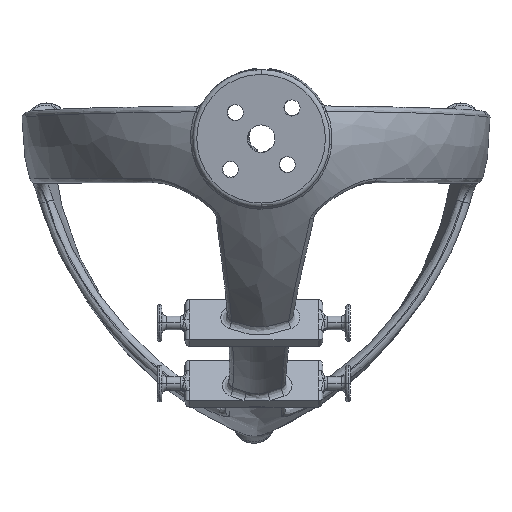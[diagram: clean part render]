
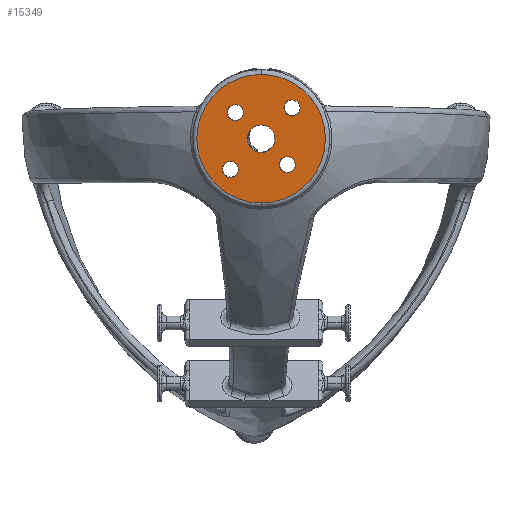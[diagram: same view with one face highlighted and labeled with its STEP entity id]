
A CAD part, top view. The second image highlights one B-rep face of the part: STEP entity #15349.
In plain terms, the highlighted planar face has unit normal (-0.052, -0.052, 0.997).
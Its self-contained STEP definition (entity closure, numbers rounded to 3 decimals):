
#728 = EDGE_LOOP ( 'NONE', ( #23106, #13527 ) ) ;
#1397 = CARTESIAN_POINT ( 'NONE',  ( -5.136, -3.368, -30.611 ) ) ;
#1536 = DIRECTION ( 'NONE',  ( -0.052, -0.052, 0.997 ) ) ;
#1688 = CARTESIAN_POINT ( 'NONE',  ( 8.281, 10.012, -29.206 ) ) ;
#1983 = VERTEX_POINT ( 'NONE', #14915 ) ;
#2585 = DIRECTION ( 'NONE',  ( 0.052, 0.052, -0.997 ) ) ;
#2973 = DIRECTION ( 'NONE',  ( 0., 0.999, 0.052 ) ) ;
#3686 = EDGE_CURVE ( 'NONE', #38434, #38652, #20599, .T. ) ;
#4035 = AXIS2_PLACEMENT_3D ( 'NONE', #12619, #12348, #34086 ) ;
#4272 = EDGE_CURVE ( 'NONE', #5131, #39244, #36839, .T. ) ;
#4338 = EDGE_CURVE ( 'NONE', #39244, #5131, #22044, .T. ) ;
#4681 = EDGE_CURVE ( 'NONE', #22495, #1983, #25834, .T. ) ;
#5131 = VERTEX_POINT ( 'NONE', #34889 ) ;
#5255 = AXIS2_PLACEMENT_3D ( 'NONE', #9523, #27940, #15848 ) ;
#5417 = CIRCLE ( 'NONE', #28081, 1.75 ) ;
#5777 = CARTESIAN_POINT ( 'NONE',  ( 8.281, 8.264, -29.297 ) ) ;
#5825 = AXIS2_PLACEMENT_3D ( 'NONE', #37361, #19052, #15394 ) ;
#7626 = CARTESIAN_POINT ( 'NONE',  ( 1.572, 1.574, -30. ) ) ;
#7924 = CIRCLE ( 'NONE', #4035, 1.75 ) ;
#8007 = PLANE ( 'NONE',  #15712 ) ;
#8336 = CARTESIAN_POINT ( 'NONE',  ( -5.136, -5.115, -30.703 ) ) ;
#9118 = EDGE_CURVE ( 'NONE', #38652, #38434, #10359, .T. ) ;
#9523 = CARTESIAN_POINT ( 'NONE',  ( 1.572, 1.574, -30. ) ) ;
#9589 = DIRECTION ( 'NONE',  ( 0., 0.999, 0.052 ) ) ;
#9732 = EDGE_CURVE ( 'NONE', #28246, #14136, #26213, .T. ) ;
#9753 = FACE_OUTER_BOUND ( 'NONE', #12243, .T. ) ;
#10253 = FACE_BOUND ( 'NONE', #728, .T. ) ;
#10359 = CIRCLE ( 'NONE', #34618, 1.75 ) ;
#11121 = EDGE_CURVE ( 'NONE', #32933, #18273, #7924, .T. ) ;
#11363 = CARTESIAN_POINT ( 'NONE',  ( -4.077, 5.491, -30.09 ) ) ;
#11866 = DIRECTION ( 'NONE',  ( 0.052, 0.052, -0.997 ) ) ;
#12243 = EDGE_LOOP ( 'NONE', ( #33477, #18611 ) ) ;
#12348 = DIRECTION ( 'NONE',  ( 0.052, 0.052, -0.997 ) ) ;
#12619 = CARTESIAN_POINT ( 'NONE',  ( -4.077, 7.239, -29.999 ) ) ;
#12673 = DIRECTION ( 'NONE',  ( 0.052, 0.052, -0.997 ) ) ;
#13240 = EDGE_CURVE ( 'NONE', #14136, #28246, #31382, .T. ) ;
#13352 = EDGE_CURVE ( 'NONE', #14429, #31928, #31874, .T. ) ;
#13527 = ORIENTED_EDGE ( 'NONE', *, *, #15539, .T. ) ;
#13587 = AXIS2_PLACEMENT_3D ( 'NONE', #8336, #39323, #29947 ) ;
#14136 = VERTEX_POINT ( 'NONE', #1397 ) ;
#14275 = ORIENTED_EDGE ( 'NONE', *, *, #11121, .T. ) ;
#14429 = VERTEX_POINT ( 'NONE', #15387 ) ;
#14915 = CARTESIAN_POINT ( 'NONE',  ( 7.221, -5.838, -30.093 ) ) ;
#15349 = ADVANCED_FACE ( 'NONE', ( #18450, #21827, #32791, #31841, #10253, #9753 ), #8007, .F. ) ;
#15387 = CARTESIAN_POINT ( 'NONE',  ( 1.572, 4.57, -29.843 ) ) ;
#15394 = DIRECTION ( 'NONE',  ( 0., 0.999, 0.052 ) ) ;
#15539 = EDGE_CURVE ( 'NONE', #1983, #22495, #5417, .T. ) ;
#15681 = CARTESIAN_POINT ( 'NONE',  ( -4.077, 7.239, -29.999 ) ) ;
#15712 = AXIS2_PLACEMENT_3D ( 'NONE', #32951, #20405, #20270 ) ;
#15848 = DIRECTION ( 'NONE',  ( 0., -0.999, -0.052 ) ) ;
#16488 = CIRCLE ( 'NONE', #35863, 1.75 ) ;
#18273 = VERTEX_POINT ( 'NONE', #11363 ) ;
#18317 = ORIENTED_EDGE ( 'NONE', *, *, #26044, .F. ) ;
#18450 = FACE_BOUND ( 'NONE', #29765, .T. ) ;
#18611 = ORIENTED_EDGE ( 'NONE', *, *, #4272, .T. ) ;
#18765 = DIRECTION ( 'NONE',  ( 0., -0.999, -0.052 ) ) ;
#19052 = DIRECTION ( 'NONE',  ( 0.052, 0.052, -0.997 ) ) ;
#19200 = DIRECTION ( 'NONE',  ( 0.052, 0.052, -0.997 ) ) ;
#19794 = ORIENTED_EDGE ( 'NONE', *, *, #13352, .F. ) ;
#20028 = CARTESIAN_POINT ( 'NONE',  ( 1.572, 1.574, -30. ) ) ;
#20043 = AXIS2_PLACEMENT_3D ( 'NONE', #5777, #27274, #24336 ) ;
#20270 = DIRECTION ( 'NONE',  ( 0., 0.999, 0.052 ) ) ;
#20405 = DIRECTION ( 'NONE',  ( 0.052, 0.052, -0.997 ) ) ;
#20599 = CIRCLE ( 'NONE', #20043, 1.75 ) ;
#21450 = DIRECTION ( 'NONE',  ( -0.052, -0.052, 0.997 ) ) ;
#21507 = CARTESIAN_POINT ( 'NONE',  ( 8.281, 6.517, -29.389 ) ) ;
#21571 = ORIENTED_EDGE ( 'NONE', *, *, #9732, .T. ) ;
#21827 = FACE_BOUND ( 'NONE', #28847, .T. ) ;
#21890 = CIRCLE ( 'NONE', #5255, 3. ) ;
#22044 = CIRCLE ( 'NONE', #39698, 14. ) ;
#22495 = VERTEX_POINT ( 'NONE', #22836 ) ;
#22649 = CARTESIAN_POINT ( 'NONE',  ( -4.077, 8.987, -29.907 ) ) ;
#22727 = DIRECTION ( 'NONE',  ( 0., 0.999, 0.052 ) ) ;
#22836 = CARTESIAN_POINT ( 'NONE',  ( 7.221, -2.343, -29.91 ) ) ;
#22988 = DIRECTION ( 'NONE',  ( -0.052, -0.052, 0.997 ) ) ;
#23106 = ORIENTED_EDGE ( 'NONE', *, *, #4681, .T. ) ;
#24070 = EDGE_LOOP ( 'NONE', ( #14275, #25982 ) ) ;
#24336 = DIRECTION ( 'NONE',  ( 0., 0.999, 0.052 ) ) ;
#25218 = DIRECTION ( 'NONE',  ( 0., 0.999, 0.052 ) ) ;
#25254 = CARTESIAN_POINT ( 'NONE',  ( 1.572, -1.421, -30.157 ) ) ;
#25353 = AXIS2_PLACEMENT_3D ( 'NONE', #20028, #1536, #22727 ) ;
#25834 = CIRCLE ( 'NONE', #5825, 1.75 ) ;
#25982 = ORIENTED_EDGE ( 'NONE', *, *, #29342, .T. ) ;
#26044 = EDGE_CURVE ( 'NONE', #31928, #14429, #21890, .T. ) ;
#26213 = CIRCLE ( 'NONE', #13587, 1.75 ) ;
#27274 = DIRECTION ( 'NONE',  ( 0.052, 0.052, -0.997 ) ) ;
#27602 = CARTESIAN_POINT ( 'NONE',  ( 8.281, 8.264, -29.297 ) ) ;
#27940 = DIRECTION ( 'NONE',  ( -0.052, -0.052, 0.997 ) ) ;
#27946 = ORIENTED_EDGE ( 'NONE', *, *, #13240, .T. ) ;
#28081 = AXIS2_PLACEMENT_3D ( 'NONE', #31084, #2585, #39245 ) ;
#28246 = VERTEX_POINT ( 'NONE', #32495 ) ;
#28847 = EDGE_LOOP ( 'NONE', ( #27946, #21571 ) ) ;
#29342 = EDGE_CURVE ( 'NONE', #18273, #32933, #16488, .T. ) ;
#29765 = EDGE_LOOP ( 'NONE', ( #18317, #19794 ) ) ;
#29947 = DIRECTION ( 'NONE',  ( 0., 0.999, 0.052 ) ) ;
#30649 = CARTESIAN_POINT ( 'NONE',  ( 1.572, 1.574, -30. ) ) ;
#31084 = CARTESIAN_POINT ( 'NONE',  ( 7.221, -4.09, -30.001 ) ) ;
#31382 = CIRCLE ( 'NONE', #33683, 1.75 ) ;
#31841 = FACE_BOUND ( 'NONE', #37433, .T. ) ;
#31874 = CIRCLE ( 'NONE', #37243, 3. ) ;
#31928 = VERTEX_POINT ( 'NONE', #25254 ) ;
#32495 = CARTESIAN_POINT ( 'NONE',  ( -5.136, -6.863, -30.794 ) ) ;
#32538 = CARTESIAN_POINT ( 'NONE',  ( 1.572, 15.555, -29.266 ) ) ;
#32791 = FACE_BOUND ( 'NONE', #24070, .T. ) ;
#32933 = VERTEX_POINT ( 'NONE', #22649 ) ;
#32951 = CARTESIAN_POINT ( 'NONE',  ( 1.572, 1.574, -30. ) ) ;
#33477 = ORIENTED_EDGE ( 'NONE', *, *, #4338, .T. ) ;
#33683 = AXIS2_PLACEMENT_3D ( 'NONE', #34138, #12673, #9589 ) ;
#34086 = DIRECTION ( 'NONE',  ( 0., 0.999, 0.052 ) ) ;
#34138 = CARTESIAN_POINT ( 'NONE',  ( -5.136, -5.115, -30.703 ) ) ;
#34618 = AXIS2_PLACEMENT_3D ( 'NONE', #27602, #11866, #2973 ) ;
#34889 = CARTESIAN_POINT ( 'NONE',  ( 1.572, -12.406, -30.734 ) ) ;
#35863 = AXIS2_PLACEMENT_3D ( 'NONE', #15681, #19200, #25218 ) ;
#36839 = CIRCLE ( 'NONE', #25353, 14. ) ;
#37243 = AXIS2_PLACEMENT_3D ( 'NONE', #30649, #21450, #18765 ) ;
#37320 = ORIENTED_EDGE ( 'NONE', *, *, #9118, .T. ) ;
#37361 = CARTESIAN_POINT ( 'NONE',  ( 7.221, -4.09, -30.001 ) ) ;
#37433 = EDGE_LOOP ( 'NONE', ( #38735, #37320 ) ) ;
#38073 = DIRECTION ( 'NONE',  ( 0., 0.999, 0.052 ) ) ;
#38434 = VERTEX_POINT ( 'NONE', #1688 ) ;
#38652 = VERTEX_POINT ( 'NONE', #21507 ) ;
#38735 = ORIENTED_EDGE ( 'NONE', *, *, #3686, .T. ) ;
#39244 = VERTEX_POINT ( 'NONE', #32538 ) ;
#39245 = DIRECTION ( 'NONE',  ( 0., 0.999, 0.052 ) ) ;
#39323 = DIRECTION ( 'NONE',  ( 0.052, 0.052, -0.997 ) ) ;
#39698 = AXIS2_PLACEMENT_3D ( 'NONE', #7626, #22988, #38073 ) ;
